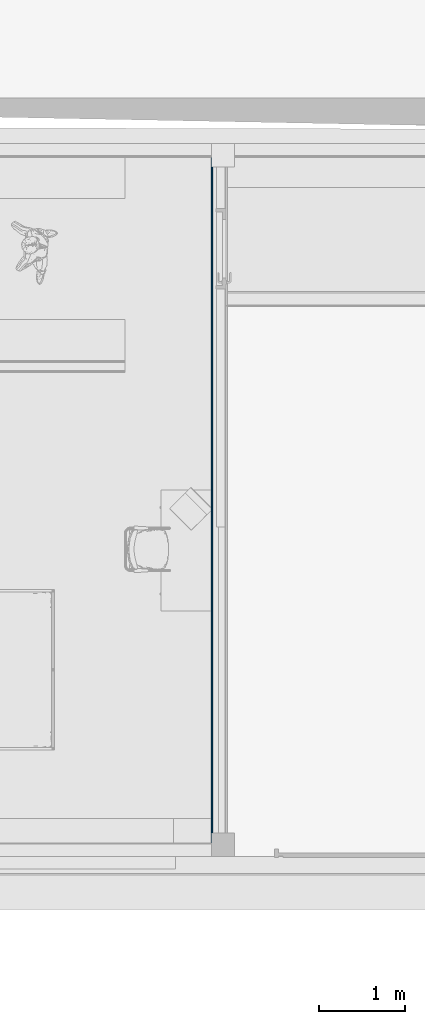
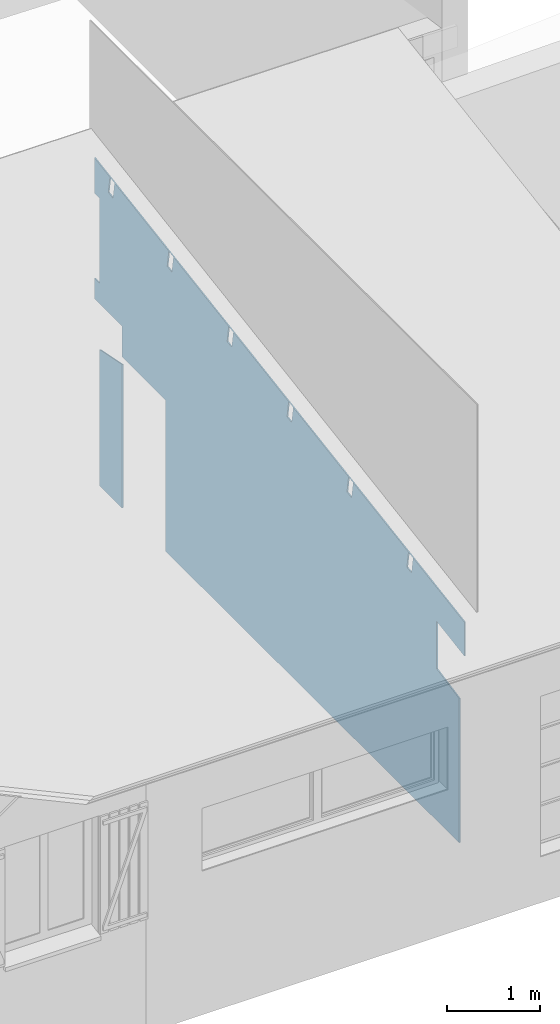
# One storey, part 13 of 24: 1 building element part, 1 opening, 1 element without a shape of its own.
"""IFC2X3 building model written with IfcOpenShell, lengths in metres."""

from ifc_helpers import new_model, entity, si_unit, converted_unit, derived_unit, money_unit, direction, frame, origin_with_axes, origin_2d_with_axis, place, context, subcontext, project, spatial, polyline, rectangle, outline, extrude, boolean, faceted_brep, material, type_object, element, aggregate, save


model = new_model("IFC2X3")

# Units and contexts
model_context = context("Model", 3, precision=1e-05, world=origin_with_axes(), true_north=direction((0.0, 1.0)))
body_context = subcontext(model_context, "Body", "Model", "MODEL_VIEW")
ifc_project = project(units=[si_unit("LENGTHUNIT", "METRE"), si_unit("AREAUNIT", "SQUARE_METRE"), si_unit("VOLUMEUNIT", "CUBIC_METRE"), converted_unit("PLANEANGLEUNIT", "DEGREE", entity("IfcPlaneAngleMeasure", 0.0174532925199), si_unit("PLANEANGLEUNIT", "RADIAN"), dimensions=[0, 0, 0, 0, 0, 0, 0]), si_unit("SOLIDANGLEUNIT", "STERADIAN"), money_unit("CHF"), converted_unit("TIMEUNIT", "Year", entity("IfcTimeMeasure", 31556926.0), si_unit("TIMEUNIT", "SECOND"), dimensions=[0, 0, 1, 0, 0, 0, 0]), si_unit("MASSUNIT", "GRAM", prefix="KILO"), si_unit("THERMODYNAMICTEMPERATUREUNIT", "DEGREE_CELSIUS"), si_unit("LUMINOUSINTENSITYUNIT", "LUMEN"), si_unit("ENERGYUNIT", "JOULE", prefix="MEGA"), derived_unit("THERMALCONDUCTANCEUNIT", [(si_unit("POWERUNIT", "WATT"), 1), (si_unit("LENGTHUNIT", "METRE"), -1), (si_unit("THERMODYNAMICTEMPERATUREUNIT", "KELVIN"), -1)]), derived_unit("SPECIFICHEATCAPACITYUNIT", [(si_unit("ENERGYUNIT", "JOULE"), 1), (si_unit("MASSUNIT", "GRAM", prefix="KILO"), -1), (si_unit("THERMODYNAMICTEMPERATUREUNIT", "KELVIN"), -1)]), derived_unit("MASSDENSITYUNIT", [(si_unit("MASSUNIT", "GRAM", prefix="KILO"), 1), (si_unit("VOLUMEUNIT", "CUBIC_METRE"), -1)])], contexts=[model_context])

# Site, building, storey
site_placement = place(None, origin_with_axes())
site = spatial("IfcSite", under=ifc_project, at=site_placement, Name="Site", CompositionType="ELEMENT")
building_placement = place(site_placement, origin_with_axes())
building = spatial("IfcBuilding", under=site, at=building_placement, Name="Bâtiment", CompositionType="ELEMENT")
storey_placement = place(building_placement, origin_with_axes())
storey = spatial("IfcBuildingStorey", under=building, at=storey_placement, Name="Rez-de-chaussée", CompositionType="ELEMENT", Elevation=0.0)

# Wall, opening, building element part
wall_type = type_object("IfcWallType", Name="3.3c - Cloison doublage isolation + plâtre 2 faces 170", PredefinedType="ELEMENTEDWALL")
wall_placement = place(storey_placement, frame((27.7121417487, 8.1079346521, -0.13), z_axis=(0.0, 0.0, 1.0), x_axis=(0.0, 1.0, 0.0)))
wall = element("IfcWall", 1, at=wall_placement, inside=storey, type_object=wall_type, Name="MUR_EXT-008", ObjectType="ELEMENTEDWALL")
opening_placement = place(wall_placement, frame((6.87, 0.0, 0.13), z_axis=(0.0, 0.0, 1.0), x_axis=(1.0, 0.0, 0.0)))
element("IfcOpeningElement", 2, at=opening_placement, cuts=wall, Name="PORTE-004", context=body_context, shape_type="SweptSolid", body=[
    extrude(rectangle(XDim=0.93, YDim=2.12, at=origin_2d_with_axis()), frame((0.0, 0.17, 1.06), z_axis=(0.0, 1.0, 0.0), x_axis=(1.0, 0.0, 0.0)), (0.0, 0.0, -1.0), 0.51),
])
ifc_material = material(Name="Finition int - Plaque de plâtre")
building_element_part_placement = place(wall_placement, origin_with_axes())
solid = boolean("DIFFERENCE", boolean("DIFFERENCE", boolean("DIFFERENCE", boolean("DIFFERENCE", boolean("DIFFERENCE", boolean("DIFFERENCE", boolean("DIFFERENCE", boolean("DIFFERENCE", extrude(outline(polyline([(0.0, 0.155), (8.3, 0.155), (8.3, 0.17), (0.0, 0.17), (0.0, 0.155)])), origin_with_axes(), (0.0, 0.0, 1.0), 6.01874511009), faceted_brep([(1.09999229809, 0.17, 3.40376334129), (1.19873643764, 0.17, 3.41956191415), (1.23349329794, 0.17, 3.20232480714), (1.13474915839, 0.17, 3.18652623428), (1.09999229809, 0.155, 3.40376334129), (1.19873643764, 0.155, 3.41956191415), (1.23349329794, 0.155, 3.20232480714), (1.13474915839, 0.155, 3.18652623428)], [[[0, 1, 2, 3]], [[1, 0, 4, 5]], [[2, 1, 5, 6]], [[3, 2, 6, 7]], [[0, 3, 7, 4]], [[4, 7, 6, 5]]])), faceted_brep([(2.38366611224, 0.17, 3.6091447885), (2.48241025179, 0.17, 3.62494336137), (2.51716711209, 0.17, 3.40770625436), (2.41842297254, 0.17, 3.39190768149), (2.38366611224, 0.155, 3.6091447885), (2.48241025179, 0.155, 3.62494336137), (2.51716711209, 0.155, 3.40770625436), (2.41842297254, 0.155, 3.39190768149)], [[[0, 1, 2, 3]], [[1, 0, 4, 5]], [[2, 1, 5, 6]], [[3, 2, 6, 7]], [[0, 3, 7, 4]], [[4, 7, 6, 5]]])), faceted_brep([(3.6673399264, 0.17, 3.81452623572), (3.76608406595, 0.17, 3.83032480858), (3.80084092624, 0.17, 3.61308770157), (3.70209678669, 0.17, 3.59728912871), (3.6673399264, 0.155, 3.81452623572), (3.76608406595, 0.155, 3.83032480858), (3.80084092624, 0.155, 3.61308770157), (3.70209678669, 0.155, 3.59728912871)], [[[0, 1, 2, 3]], [[1, 0, 4, 5]], [[2, 1, 5, 6]], [[3, 2, 6, 7]], [[0, 3, 7, 4]], [[4, 7, 6, 5]]])), faceted_brep([(4.95101374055, 0.17, 4.01990768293), (5.0497578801, 0.17, 4.0357062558), (5.0845147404, 0.17, 3.81846914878), (4.98577060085, 0.17, 3.80267057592), (4.95101374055, 0.155, 4.01990768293), (5.0497578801, 0.155, 4.0357062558), (5.0845147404, 0.155, 3.81846914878), (4.98577060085, 0.155, 3.80267057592)], [[[0, 1, 2, 3]], [[1, 0, 4, 5]], [[2, 1, 5, 6]], [[3, 2, 6, 7]], [[0, 3, 7, 4]], [[4, 7, 6, 5]]])), faceted_brep([(6.2346875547, 0.17, 4.22528913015), (6.33343169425, 0.17, 4.24108770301), (6.36818855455, 0.17, 4.023850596), (6.269444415, 0.17, 4.00805202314), (6.2346875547, 0.155, 4.22528913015), (6.33343169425, 0.155, 4.24108770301), (6.36818855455, 0.155, 4.023850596), (6.269444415, 0.155, 4.00805202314)], [[[0, 1, 2, 3]], [[1, 0, 4, 5]], [[2, 1, 5, 6]], [[3, 2, 6, 7]], [[0, 3, 7, 4]], [[4, 7, 6, 5]]])), faceted_brep([(7.49583260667, 0.17, 4.42706608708), (7.59457674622, 0.17, 4.44286465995), (7.62933360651, 0.17, 4.22562755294), (7.53058946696, 0.17, 4.20982898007), (7.49583260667, 0.155, 4.42706608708), (7.59457674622, 0.155, 4.44286465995), (7.62933360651, 0.155, 4.22562755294), (7.53058946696, 0.155, 4.20982898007)], [[[0, 1, 2, 3]], [[1, 0, 4, 5]], [[2, 1, 5, 6]], [[3, 2, 6, 7]], [[0, 3, 7, 4]], [[4, 7, 6, 5]]])), faceted_brep([(0.595, 0.155, 2.88025371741), (0.0, 0.155, 2.78505666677), (0.0, 0.155, 0.0), (8.3, 0.155, 0.0), (8.3, 0.155, 6.01874511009), (0.0, 0.155, 6.01874511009), (0.0, 0.155, 3.2291999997), (7.9300000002, 0.155, 4.49799999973), (7.93000000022, 0.155, 4.03253522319), (7.815, 0.155, 4.03253522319), (7.815, 0.155, 2.92), (7.93000000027, 0.155, 2.92), (7.93000000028, 0.155, 2.65156535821), (7.335, 0.155, 2.65156535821), (7.335, 0.155, 2.15156535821), (7.815, 0.155, 2.05557143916), (7.815, 0.155, 0.275), (0.115, 0.155, 0.275), (0.115, 0.155, 2.16426351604), (0.595, 0.155, 2.26025743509), (0.0, 0.17, 2.78505666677), (0.595, 0.17, 2.88025371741), (0.0, 0.17, 0.0), (8.3, 0.17, 0.0), (8.3, 0.17, 6.01874511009), (0.0, 0.17, 6.01874511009), (0.0, 0.17, 3.2291999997), (7.9300000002, 0.17, 4.49799999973), (7.93000000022, 0.17, 4.03253522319), (7.815, 0.17, 4.03253522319), (7.815, 0.17, 2.92), (7.93000000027, 0.17, 2.92), (7.93000000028, 0.17, 2.65156535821), (7.335, 0.17, 2.65156535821), (7.335, 0.17, 2.15156535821), (7.815, 0.17, 2.05557143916), (7.815, 0.17, 0.275), (0.115, 0.17, 0.275), (0.115, 0.17, 2.16426351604), (0.595, 0.17, 2.26025743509)], [[[0, 1, 2, 3, 4, 5, 6, 7, 8, 9, 10, 11, 12, 13, 14, 15, 16, 17, 18, 19]], [[20, 1, 0, 21]], [[1, 20, 22, 2]], [[3, 2, 22, 23]], [[4, 3, 23, 24]], [[25, 5, 4, 24]], [[26, 6, 5, 25]], [[6, 26, 27, 7]], [[8, 7, 27, 28]], [[28, 29, 9, 8]], [[29, 30, 10, 9]], [[30, 31, 11, 10]], [[12, 11, 31, 32]], [[32, 33, 13, 12]], [[33, 34, 14, 13]], [[34, 35, 15, 14]], [[35, 36, 16, 15]], [[36, 37, 17, 16]], [[37, 38, 18, 17]], [[38, 39, 19, 18]], [[39, 21, 0, 19]], [[27, 26, 25, 24, 23, 22, 20, 21, 39, 38, 37, 36, 35, 34, 33, 32, 31, 30, 29, 28]]])), faceted_brep([(1.09999229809, 0.155, 3.40376334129), (1.19873643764, 0.155, 3.41956191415), (1.23349329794, 0.155, 3.20232480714), (1.13474915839, 0.155, 3.18652623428), (1.09999229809, 0.015, 3.40376334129), (1.19873643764, 0.015, 3.41956191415), (1.23349329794, 0.015, 3.20232480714), (1.23349329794, 0.085, 3.20232480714), (1.13474915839, 0.085, 3.18652623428), (1.13474915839, 0.015, 3.18652623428), (0.0, 0.015, 3.2291999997), (7.94499999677, 0.015, 4.50039999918), (7.94499999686, 0.015, 4.27613261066), (7.62933360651, 0.015, 4.22562755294), (7.59457674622, 0.015, 4.44286465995), (7.49583260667, 0.015, 4.42706608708), (7.53058946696, 0.015, 4.20982898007), (6.36818855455, 0.015, 4.023850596), (6.33343169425, 0.015, 4.24108770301), (6.2346875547, 0.015, 4.22528913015), (6.269444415, 0.015, 4.00805202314), (5.0845147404, 0.015, 3.81846914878), (5.0497578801, 0.015, 4.0357062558), (4.95101374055, 0.015, 4.01990768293), (4.98577060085, 0.015, 3.80267057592), (3.80084092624, 0.015, 3.61308770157), (3.76608406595, 0.015, 3.83032480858), (3.6673399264, 0.015, 3.81452623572), (3.70209678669, 0.015, 3.59728912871), (2.51716711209, 0.015, 3.40770625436), (2.48241025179, 0.015, 3.62494336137), (2.38366611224, 0.015, 3.6091447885), (2.41842297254, 0.015, 3.39190768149), (0.0, 0.015, 3.00497199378), (0.0, 0.015, 0.0), (8.3, 0.015, 0.0), (8.3, 0.015, 6.01874511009), (0.0, 0.015, 6.01874511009), (7.935, 0.015, 2.50156535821), (7.935, 0.015, 2.65156535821), (7.94499999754, 0.015, 2.65156535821), (7.9449999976, 0.015, 2.50156535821), (7.815, 0.015, 2.92), (7.94499999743, 0.015, 2.92), (7.94499999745, 0.015, 2.87156535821), (3.65482836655, 0.015, 2.87156535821), (3.65482836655, 0.015, 2.65156535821), (7.335, 0.015, 2.65156535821), (7.335, 0.015, 2.15156535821), (7.815, 0.015, 2.05557143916), (7.815, 0.015, 0.275), (2.38843616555, 0.015, 0.275), (2.38843616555, 0.015, 0.13), (0.115, 0.015, 0.13), (0.115, 0.015, 2.16426351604), (0.595, 0.015, 2.26025743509), (0.595, 0.015, 2.87737101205), (7.815, 0.015, 4.03253522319), (7.815, 0.015, 4.03253522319), (7.94499999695, 0.015, 4.05333457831), (7.94499999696, 0.015, 4.03253522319), (2.41842297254, 0.085, 3.39190768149), (0.0, 0.085, 2.78505666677), (0.0, 0.085, 3.00497199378), (2.51716711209, 0.085, 3.40770625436), (3.70209678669, 0.085, 3.59728912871), (3.80084092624, 0.085, 3.61308770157), (4.98577060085, 0.085, 3.80267057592), (5.0845147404, 0.085, 3.81846914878), (6.269444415, 0.085, 4.00805202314), (6.36818855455, 0.085, 4.023850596), (7.53058946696, 0.085, 4.20982898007), (7.62933360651, 0.085, 4.22562755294), (7.94499999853, 0.085, 4.27613261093), (7.94499999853, 0.085, 4.05333457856), (7.815, 0.085, 4.03253522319), (0.595, 0.085, 2.87737101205), (0.595, 0.085, 2.88025371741), (0.0, 0.155, 3.2291999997), (7.9449999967, 0.155, 4.50039999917), (7.9449999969, 0.155, 4.03253522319), (7.59457674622, 0.155, 4.44286465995), (7.62933360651, 0.155, 4.22562755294), (7.49583260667, 0.155, 4.42706608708), (7.53058946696, 0.155, 4.20982898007), (6.33343169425, 0.155, 4.24108770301), (6.36818855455, 0.155, 4.023850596), (6.2346875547, 0.155, 4.22528913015), (6.269444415, 0.155, 4.00805202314), (5.0497578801, 0.155, 4.0357062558), (5.0845147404, 0.155, 3.81846914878), (4.95101374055, 0.155, 4.01990768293), (4.98577060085, 0.155, 3.80267057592), (3.76608406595, 0.155, 3.83032480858), (3.80084092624, 0.155, 3.61308770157), (3.6673399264, 0.155, 3.81452623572), (3.70209678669, 0.155, 3.59728912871), (2.48241025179, 0.155, 3.62494336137), (2.51716711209, 0.155, 3.40770625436), (2.38366611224, 0.155, 3.6091447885), (2.41842297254, 0.155, 3.39190768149), (0.0, 0.155, 2.78505666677), (0.0, 0.155, 0.0), (8.3, 0.155, 0.0), (8.3, 0.155, 6.01874511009), (0.0, 0.155, 6.01874511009), (7.935, 0.155, 2.50156535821), (7.935, 0.155, 2.65156535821), (7.935, 0.11, 2.65156535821), (7.94499999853, 0.11, 2.65156535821), (7.94499999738, 0.155, 2.92), (7.94499999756, 0.155, 2.50156535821), (7.94499999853, 0.11, 2.87156535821), (7.815, 0.155, 2.92), (3.65482836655, 0.11, 2.87156535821), (3.65482836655, 0.11, 2.65156535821), (7.335, 0.11, 2.65156535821), (7.335, 0.155, 2.15156535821), (7.335, 0.155, 2.65156535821), (7.815, 0.155, 2.05557143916), (7.815, 0.155, 0.275), (0.115, 0.155, 0.275), (0.115, 0.0328768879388, 0.275), (0.115, 0.0328768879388, 0.13), (0.115, 0.155, 2.16426351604), (0.595, 0.155, 2.26025743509), (0.595, 0.155, 2.88025371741), (7.815, 0.155, 4.03253522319)], [[[0, 1, 2, 3]], [[0, 4, 5, 1]], [[1, 5, 6, 7, 2]], [[2, 7, 8, 3]], [[3, 8, 9, 4, 0]], [[10, 11, 12, 13, 14, 15, 16, 17, 18, 19, 20, 21, 22, 23, 24, 25, 26, 27, 28, 29, 30, 31, 32, 6, 5, 4, 9, 33, 34, 35, 36, 37], [38, 39, 40, 41], [42, 43, 44, 45, 46, 47, 48, 49, 50, 51, 52, 53, 54, 55, 56, 57], [58, 59, 60]], [[6, 32, 61, 7]], [[62, 63, 8, 7, 61, 64, 65, 66, 67, 68, 69, 70, 71, 72, 73, 74, 75, 76, 77]], [[63, 33, 9, 8]], [[11, 10, 78, 79]], [[12, 11, 79, 80, 60, 59, 74, 73]], [[12, 73, 72, 13]], [[81, 14, 13, 72, 82]], [[83, 15, 14, 81]], [[84, 71, 16, 15, 83]], [[70, 17, 16, 71]], [[85, 18, 17, 70, 86]], [[87, 19, 18, 85]], [[88, 69, 20, 19, 87]], [[21, 20, 69, 68]], [[89, 22, 21, 68, 90]], [[91, 23, 22, 89]], [[92, 67, 24, 23, 91]], [[66, 25, 24, 67]], [[93, 26, 25, 66, 94]], [[95, 27, 26, 93]], [[96, 65, 28, 27, 95]], [[64, 29, 28, 65]], [[97, 30, 29, 64, 98]], [[99, 31, 30, 97]], [[100, 61, 32, 31, 99]], [[62, 101, 102, 34, 33, 63]], [[35, 34, 102, 103]], [[36, 35, 103, 104]], [[105, 37, 36, 104]], [[78, 10, 37, 105]], [[39, 38, 106, 107, 108]], [[40, 39, 108, 109]], [[44, 43, 110, 111, 41, 40, 109, 112]], [[38, 41, 111, 106]], [[43, 42, 113, 110]], [[44, 112, 114, 45]], [[46, 45, 114, 115]], [[115, 116, 47, 46]], [[117, 48, 47, 116, 118]], [[119, 49, 48, 117]], [[120, 50, 49, 119]], [[121, 122, 51, 50, 120]], [[122, 123, 52, 51]], [[53, 52, 123]], [[124, 54, 53, 123, 122, 121]], [[125, 55, 54, 124]], [[126, 77, 76, 56, 55, 125]], [[75, 57, 56, 76]], [[113, 42, 57, 75, 127]], [[59, 58, 75, 74]], [[60, 80, 127, 75, 58]], [[98, 64, 61, 100]], [[94, 66, 65, 96]], [[90, 68, 67, 92]], [[86, 70, 69, 88]], [[82, 72, 71, 84]], [[101, 62, 77, 126]], [[79, 78, 105, 104, 103, 102, 101, 126, 125, 124, 121, 120, 119, 117, 118, 107, 106, 111, 110, 113, 127, 80]], [[83, 81, 82, 84]], [[87, 85, 86, 88]], [[91, 89, 90, 92]], [[95, 93, 94, 96]], [[99, 97, 98, 100]], [[107, 118, 116, 108]], [[115, 114, 112, 109, 108, 116]]]))
building_element_part = element("IfcBuildingElementPart", 3, at=building_element_part_placement, material=ifc_material, Name="Finition int - Plaque de plâtre", context=body_context, shape_type="CSG", body=[
    boolean("DIFFERENCE", solid, faceted_brep([(3.65482836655, 0.01, 2.87156535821), (3.65482836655, 0.01, 2.65156535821), (7.335, 0.01, 2.65156535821), (7.93000000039, 0.01, 2.65156535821), (7.93000000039, 0.01, 2.87156535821), (3.65482836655, 0.015, 2.87156535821), (3.65482836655, 0.015, 2.65156535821), (7.335, 0.015, 2.65156535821), (7.335, 0.0, 2.65156535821), (7.93000000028, 0.0, 2.65156535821), (7.93000000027, 0.015, 2.92), (7.93000000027, 0.015, 2.87156535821), (7.93000000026, 0.0, 2.92), (0.0, 0.015, 0.0), (0.0, 0.015, 3.00497199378), (1.13474915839, 0.015, 3.18652623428), (1.09999229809, 0.015, 3.40376334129), (1.19873643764, 0.015, 3.41956191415), (1.23349329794, 0.015, 3.20232480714), (2.41842297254, 0.015, 3.39190768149), (2.38366611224, 0.015, 3.6091447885), (2.48241025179, 0.015, 3.62494336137), (2.51716711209, 0.015, 3.40770625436), (3.70209678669, 0.015, 3.59728912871), (3.6673399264, 0.015, 3.81452623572), (3.76608406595, 0.015, 3.83032480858), (3.80084092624, 0.015, 3.61308770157), (4.98577060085, 0.015, 3.80267057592), (4.95101374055, 0.015, 4.01990768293), (5.0497578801, 0.015, 4.0357062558), (5.0845147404, 0.015, 3.81846914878), (6.269444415, 0.015, 4.00805202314), (6.2346875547, 0.015, 4.22528913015), (6.33343169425, 0.015, 4.24108770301), (6.36818855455, 0.015, 4.023850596), (7.53058946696, 0.015, 4.20982898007), (7.49583260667, 0.015, 4.42706608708), (7.59457674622, 0.015, 4.44286465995), (7.62933360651, 0.015, 4.22562755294), (7.9300000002, 0.015, 4.27373268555), (7.93000000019, 0.015, 4.49799999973), (0.0, 0.015, 3.2291999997), (0.0, 0.015, 6.01874511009), (8.3, 0.015, 6.01874511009), (8.3, 0.015, 0.0), (0.115, 0.015, 0.13), (2.38843616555, 0.015, 0.13), (2.38843616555, 0.015, 0.275), (7.815, 0.015, 0.275), (7.815, 0.015, 2.05557143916), (7.335, 0.015, 2.15156535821), (7.815, 0.015, 2.92), (7.815, 0.015, 4.03253522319), (7.93000000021, 0.015, 4.03253522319), (7.93000000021, 0.015, 4.05093465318), (7.815, 0.015, 4.03253522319), (0.595, 0.015, 2.87737101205), (0.595, 0.015, 2.26025743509), (0.115, 0.015, 2.16426351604), (7.335, 0.0, 2.15156535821), (0.0, 0.0, 3.00497199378), (0.0, 0.0, 0.0), (8.3, 0.0, 0.0), (8.3, 0.0, 6.01874511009), (0.0, 0.0, 6.01874511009), (0.0, 0.0, 3.2291999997), (7.93000000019, 0.0, 4.49799999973), (7.9300000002, 0.0, 4.27373268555), (7.62933360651, 0.0, 4.22562755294), (7.59457674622, 0.0, 4.44286465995), (7.49583260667, 0.0, 4.42706608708), (7.53058946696, 0.0, 4.20982898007), (6.36818855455, 0.0, 4.023850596), (6.33343169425, 0.0, 4.24108770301), (6.2346875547, 0.0, 4.22528913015), (6.269444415, 0.0, 4.00805202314), (5.0845147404, 0.0, 3.81846914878), (5.0497578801, 0.0, 4.0357062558), (4.95101374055, 0.0, 4.01990768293), (4.98577060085, 0.0, 3.80267057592), (3.80084092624, 0.0, 3.61308770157), (3.76608406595, 0.0, 3.83032480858), (3.6673399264, 0.0, 3.81452623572), (3.70209678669, 0.0, 3.59728912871), (2.51716711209, 0.0, 3.40770625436), (2.48241025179, 0.0, 3.62494336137), (2.38366611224, 0.0, 3.6091447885), (2.41842297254, 0.0, 3.39190768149), (1.23349329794, 0.0, 3.20232480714), (1.19873643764, 0.0, 3.41956191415), (1.09999229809, 0.0, 3.40376334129), (1.13474915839, 0.0, 3.18652623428), (0.115, 0.0, 2.16426351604), (0.595, 0.0, 2.26025743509), (0.595, 0.0, 2.87737101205), (7.815, 0.0, 4.03253522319), (7.93000000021, 0.0, 4.05093465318), (7.93000000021, 0.0, 4.03253522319), (7.815, 0.0, 4.03253522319), (7.815, 0.0, 2.92), (7.815, 0.0, 2.05557143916), (7.815, 0.0, 0.275), (4.29601328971, 0.0, 0.275), (4.29601328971, 0.0, 0.13), (0.115, 0.0, 0.13)], [[[0, 1, 2, 3, 4]], [[5, 6, 1, 0]], [[6, 7, 2, 1]], [[3, 2, 8, 9]], [[10, 11, 4, 3, 9, 12]], [[11, 5, 0, 4]], [[13, 14, 15, 16, 17, 18, 19, 20, 21, 22, 23, 24, 25, 26, 27, 28, 29, 30, 31, 32, 33, 34, 35, 36, 37, 38, 39, 40, 41, 42, 43, 44], [45, 46, 47, 48, 49, 50, 7, 6, 5, 11, 10, 51, 52, 53, 54, 55, 56, 57, 58]], [[7, 50, 59, 8, 2]], [[60, 61, 62, 63, 64, 65, 66, 67, 68, 69, 70, 71, 72, 73, 74, 75, 76, 77, 78, 79, 80, 81, 82, 83, 84, 85, 86, 87, 88, 89, 90, 91], [92, 93, 94, 95, 96, 97, 98, 99, 12, 9, 8, 59, 100, 101, 102, 103, 104]], [[51, 10, 12, 99]], [[14, 13, 61, 60]], [[15, 14, 60, 91]], [[16, 15, 91, 90]], [[17, 16, 90, 89]], [[18, 17, 89, 88]], [[19, 18, 88, 87]], [[20, 19, 87, 86]], [[21, 20, 86, 85]], [[22, 21, 85, 84]], [[23, 22, 84, 83]], [[24, 23, 83, 82]], [[25, 24, 82, 81]], [[26, 25, 81, 80]], [[27, 26, 80, 79]], [[28, 27, 79, 78]], [[29, 28, 78, 77]], [[30, 29, 77, 76]], [[31, 30, 76, 75]], [[32, 31, 75, 74]], [[33, 32, 74, 73]], [[34, 33, 73, 72]], [[35, 34, 72, 71]], [[36, 35, 71, 70]], [[37, 36, 70, 69]], [[38, 37, 69, 68]], [[39, 38, 68, 67]], [[40, 39, 67, 66]], [[41, 40, 66, 65]], [[42, 41, 65, 64]], [[43, 42, 64, 63]], [[44, 43, 63, 62]], [[13, 44, 62, 61]], [[46, 45, 104, 103]], [[47, 46, 103, 102]], [[48, 47, 102, 101]], [[49, 48, 101, 100]], [[50, 49, 100, 59]], [[52, 51, 99, 98]], [[53, 52, 98, 97]], [[54, 53, 97, 96]], [[55, 54, 96, 95]], [[56, 55, 95, 94]], [[57, 56, 94, 93]], [[58, 57, 93, 92]], [[45, 58, 92, 104]]])),
])
aggregate(wall, [building_element_part])

save(model, "model.ifc")
